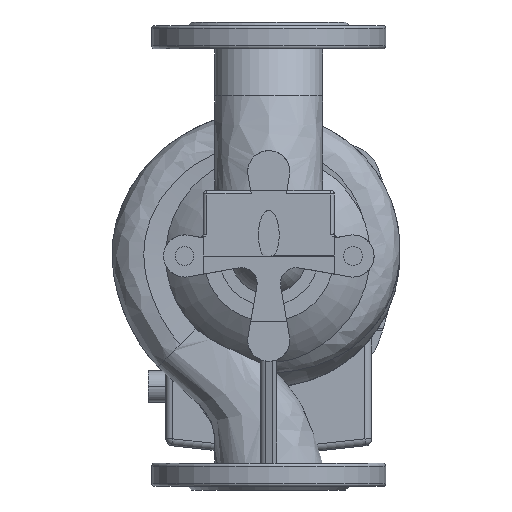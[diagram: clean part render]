
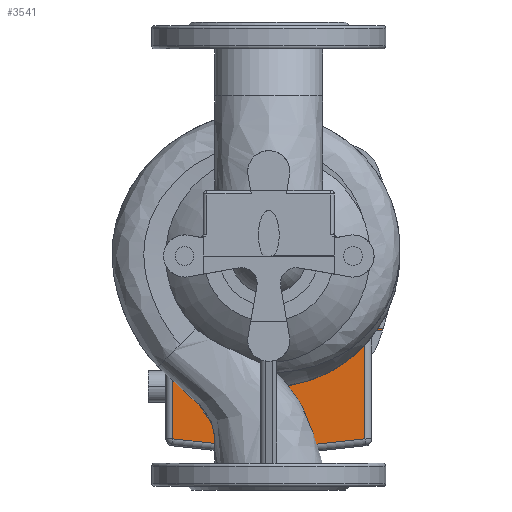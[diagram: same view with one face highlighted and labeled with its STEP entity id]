
A CAD part, front view. The second image highlights one B-rep face of the part: STEP entity #3541.
In plain terms, the highlighted planar face has unit normal (0, -1, 0) as drawn and (0, 0, 1) by its records, which use the part's own axes.
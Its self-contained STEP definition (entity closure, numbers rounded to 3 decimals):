
#152 = VECTOR ( 'NONE', #5480, 1000. ) ;
#476 = DIRECTION ( 'NONE',  ( 0., 1., 0. ) ) ;
#985 = LINE ( 'NONE', #25029, #11122 ) ;
#1067 = VERTEX_POINT ( 'NONE', #10048 ) ;
#1186 = CIRCLE ( 'NONE', #4780, 90.5 ) ;
#1309 = CARTESIAN_POINT ( 'NONE',  ( 97.799, 62., -113.5 ) ) ;
#1906 = AXIS2_PLACEMENT_3D ( 'NONE', #12645, #21205, #10526 ) ;
#1947 = CARTESIAN_POINT ( 'NONE',  ( 51.5, 107., -113.5 ) ) ;
#1974 = VERTEX_POINT ( 'NONE', #7070 ) ;
#2235 = CARTESIAN_POINT ( 'NONE',  ( 65.926, 62., -113.5 ) ) ;
#2870 = AXIS2_PLACEMENT_3D ( 'NONE', #1947, #12805, #27831 ) ;
#3078 = DIRECTION ( 'NONE',  ( 1., 0., 0. ) ) ;
#3541 = ADVANCED_FACE ( 'NONE', ( #25446 ), #8827, .T. ) ;
#4609 = ORIENTED_EDGE ( 'NONE', *, *, #15491, .T. ) ;
#4780 = AXIS2_PLACEMENT_3D ( 'NONE', #19750, #9045, #4833 ) ;
#4833 = DIRECTION ( 'NONE',  ( 1., 0., 0. ) ) ;
#4964 = CARTESIAN_POINT ( 'NONE',  ( -107., 64., -113.5 ) ) ;
#4976 = EDGE_CURVE ( 'NONE', #1067, #12627, #24098, .T. ) ;
#5262 = CIRCLE ( 'NONE', #20992, 501. ) ;
#5480 = DIRECTION ( 'NONE',  ( 1., 0., 0. ) ) ;
#5828 = VERTEX_POINT ( 'NONE', #1309 ) ;
#6263 = EDGE_CURVE ( 'NONE', #5828, #12627, #19879, .T. ) ;
#7070 = CARTESIAN_POINT ( 'NONE',  ( -82.1, 64., -113.5 ) ) ;
#7156 = CARTESIAN_POINT ( 'NONE',  ( -107., 64., -113.5 ) ) ;
#7204 = ORIENTED_EDGE ( 'NONE', *, *, #4976, .F. ) ;
#7728 = DIRECTION ( 'NONE',  ( 0., -1., 0. ) ) ;
#8827 = PLANE ( 'NONE',  #2870 ) ;
#8917 = ORIENTED_EDGE ( 'NONE', *, *, #19990, .F. ) ;
#8981 = CARTESIAN_POINT ( 'NONE',  ( -97.182, 64., -113.5 ) ) ;
#9045 = DIRECTION ( 'NONE',  ( 0., 0., -1. ) ) ;
#9124 = VERTEX_POINT ( 'NONE', #14055 ) ;
#9701 = DIRECTION ( 'NONE',  ( 0., 0., 1. ) ) ;
#10048 = CARTESIAN_POINT ( 'NONE',  ( 82.1, 64., -113.5 ) ) ;
#10296 = EDGE_LOOP ( 'NONE', ( #7204, #15782, #18864, #27157, #8917, #4609, #22624, #20096, #20351, #18953 ) ) ;
#10526 = DIRECTION ( 'NONE',  ( 1., 0., 0. ) ) ;
#10896 = LINE ( 'NONE', #23969, #14569 ) ;
#11122 = VECTOR ( 'NONE', #20405, 1000. ) ;
#11772 = EDGE_CURVE ( 'NONE', #15839, #13370, #1186, .T. ) ;
#12496 = VECTOR ( 'NONE', #22658, 1000. ) ;
#12627 = VERTEX_POINT ( 'NONE', #19643 ) ;
#12645 = CARTESIAN_POINT ( 'NONE',  ( -106.5, 0., -113.5 ) ) ;
#12718 = VERTEX_POINT ( 'NONE', #20893 ) ;
#12805 = DIRECTION ( 'NONE',  ( 0., 0., 1. ) ) ;
#13040 = VECTOR ( 'NONE', #26071, 1000. ) ;
#13370 = VERTEX_POINT ( 'NONE', #2235 ) ;
#14055 = CARTESIAN_POINT ( 'NONE',  ( -97.799, 62., -113.5 ) ) ;
#14569 = VECTOR ( 'NONE', #476, 1000. ) ;
#15189 = CIRCLE ( 'NONE', #21916, 213.5 ) ;
#15491 = EDGE_CURVE ( 'NONE', #24325, #9124, #15189, .T. ) ;
#15743 = DIRECTION ( 'NONE',  ( 1., 0., 0. ) ) ;
#15782 = ORIENTED_EDGE ( 'NONE', *, *, #24690, .T. ) ;
#15839 = VERTEX_POINT ( 'NONE', #17965 ) ;
#17552 = CARTESIAN_POINT ( 'NONE',  ( 82.1, 156.227, -113.5 ) ) ;
#17582 = LINE ( 'NONE', #20812, #152 ) ;
#17965 = CARTESIAN_POINT ( 'NONE',  ( -65.926, 62., -113.5 ) ) ;
#18134 = CARTESIAN_POINT ( 'NONE',  ( 106.5, 0., -113.5 ) ) ;
#18426 = CARTESIAN_POINT ( 'NONE',  ( 0., -338., -113.5 ) ) ;
#18864 = ORIENTED_EDGE ( 'NONE', *, *, #22760, .T. ) ;
#18953 = ORIENTED_EDGE ( 'NONE', *, *, #6263, .T. ) ;
#19643 = CARTESIAN_POINT ( 'NONE',  ( 97.182, 64., -113.5 ) ) ;
#19750 = CARTESIAN_POINT ( 'NONE',  ( 0., 0., -113.5 ) ) ;
#19879 = CIRCLE ( 'NONE', #1906, 213.5 ) ;
#19990 = EDGE_CURVE ( 'NONE', #24325, #1974, #26428, .T. ) ;
#20096 = ORIENTED_EDGE ( 'NONE', *, *, #11772, .T. ) ;
#20351 = ORIENTED_EDGE ( 'NONE', *, *, #23961, .T. ) ;
#20405 = DIRECTION ( 'NONE',  ( 0., -1., 0. ) ) ;
#20541 = LINE ( 'NONE', #24754, #12496 ) ;
#20812 = CARTESIAN_POINT ( 'NONE',  ( -107., 62., -113.5 ) ) ;
#20841 = VECTOR ( 'NONE', #15743, 1000. ) ;
#20893 = CARTESIAN_POINT ( 'NONE',  ( -82.1, 156.227, -113.5 ) ) ;
#20992 = AXIS2_PLACEMENT_3D ( 'NONE', #18426, #24896, #7728 ) ;
#21205 = DIRECTION ( 'NONE',  ( 0., 0., 1. ) ) ;
#21916 = AXIS2_PLACEMENT_3D ( 'NONE', #18134, #9701, #3078 ) ;
#22624 = ORIENTED_EDGE ( 'NONE', *, *, #22953, .T. ) ;
#22658 = DIRECTION ( 'NONE',  ( 1., 0., 0. ) ) ;
#22760 = EDGE_CURVE ( 'NONE', #24328, #12718, #5262, .T. ) ;
#22793 = EDGE_CURVE ( 'NONE', #12718, #1974, #985, .T. ) ;
#22953 = EDGE_CURVE ( 'NONE', #9124, #15839, #20541, .T. ) ;
#23961 = EDGE_CURVE ( 'NONE', #13370, #5828, #17582, .T. ) ;
#23969 = CARTESIAN_POINT ( 'NONE',  ( 82.1, 107., -113.5 ) ) ;
#24098 = LINE ( 'NONE', #4964, #13040 ) ;
#24325 = VERTEX_POINT ( 'NONE', #8981 ) ;
#24328 = VERTEX_POINT ( 'NONE', #17552 ) ;
#24690 = EDGE_CURVE ( 'NONE', #1067, #24328, #10896, .T. ) ;
#24754 = CARTESIAN_POINT ( 'NONE',  ( -107., 62., -113.5 ) ) ;
#24896 = DIRECTION ( 'NONE',  ( 0., 0., 1. ) ) ;
#25029 = CARTESIAN_POINT ( 'NONE',  ( -82.1, 107., -113.5 ) ) ;
#25446 = FACE_OUTER_BOUND ( 'NONE', #10296, .T. ) ;
#26071 = DIRECTION ( 'NONE',  ( 1., 0., 0. ) ) ;
#26428 = LINE ( 'NONE', #7156, #20841 ) ;
#27157 = ORIENTED_EDGE ( 'NONE', *, *, #22793, .T. ) ;
#27831 = DIRECTION ( 'NONE',  ( 0., -1., 0. ) ) ;
